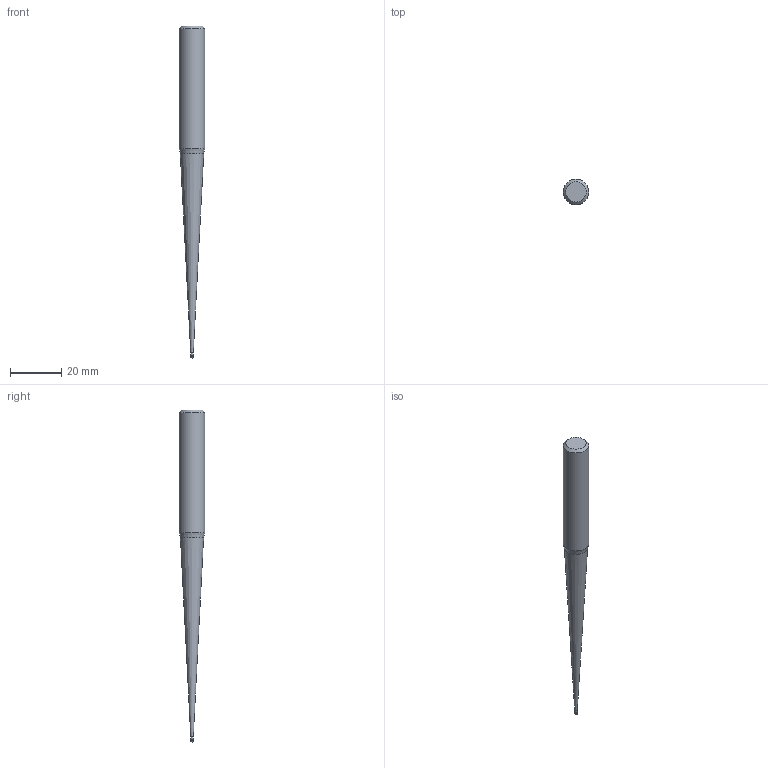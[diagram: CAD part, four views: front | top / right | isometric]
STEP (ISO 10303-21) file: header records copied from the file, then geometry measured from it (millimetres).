
FILE_DESCRIPTION((''),'2;1');
FILE_NAME('C:\Users\nsx150\AppData\Local\Temp\Mastercam 2021\SNAKH10GOD\TEMP.step','2021-10-21T13:32:28',(''),(''),'STEP Write','Mastercam 2021 ... CNC Software, Inc.','');
FILE_SCHEMA(('AUTOMOTIVE_DESIGN'));
Length unit declared in the file: millimetre
Products named in the file (1): None
Bounding box: 10 x 10 x 130 mm (x, y, z)
Volume: 5827 mm3; surface area: 2883.4 mm2
Topology: 2 solids, 2 shells, 10 faces, 16 edges, 9 vertices
Faces by surface type: plane 3, cylinder 3, cone 3, sphere 1
Full cylindrical faces by diameter (mm): 0.985 x1, 1 x1, 10 x1
Entity records: 232 total; most frequent: DIRECTION 40, CARTESIAN_POINT 28, AXIS2_PLACEMENT_3D 20, ORIENTED_EDGE 16, EDGE_LOOP 16, STYLED_ITEM 13, ADVANCED_FACE 10, FACE_BOUND 9
